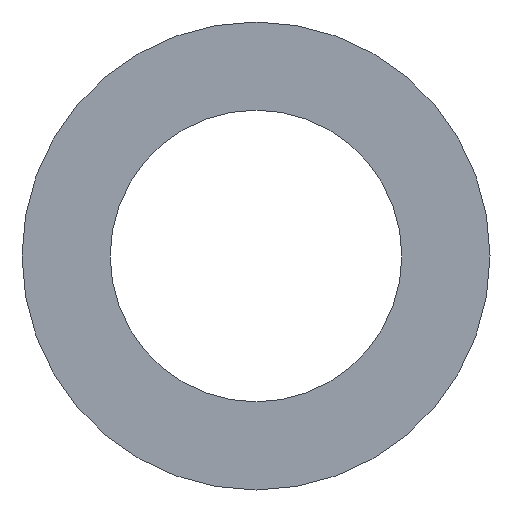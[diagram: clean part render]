
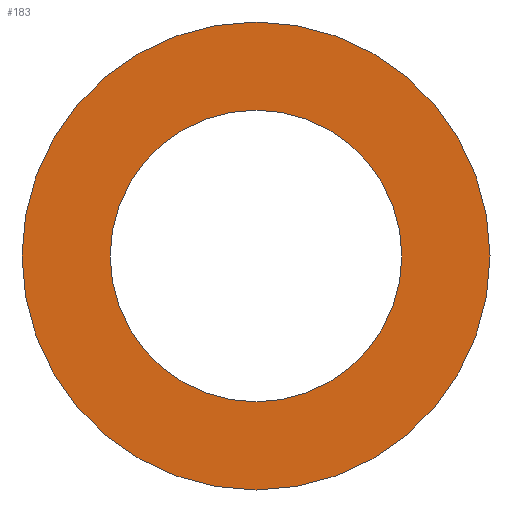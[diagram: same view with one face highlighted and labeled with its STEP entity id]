
A CAD part, left-side view. The second image highlights one B-rep face of the part: STEP entity #183.
In plain terms, the highlighted planar face has unit normal (-1, 0, 0).
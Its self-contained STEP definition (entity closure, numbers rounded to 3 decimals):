
#22 = VERTEX_POINT('',#23);
#23 = CARTESIAN_POINT('',(30.9,12.,0.));
#32 = CYLINDRICAL_SURFACE('',#33,12.);
#33 = AXIS2_PLACEMENT_3D('',#34,#35,#36);
#34 = CARTESIAN_POINT('',(30.9,0.,0.));
#35 = DIRECTION('',(-1.,-0.,-0.));
#36 = DIRECTION('',(0.,1.,0.));
#79 = EDGE_CURVE('',#22,#22,#80,.T.);
#80 = SURFACE_CURVE('',#81,(#86,#93),.PCURVE_S1.);
#81 = CIRCLE('',#82,12.);
#82 = AXIS2_PLACEMENT_3D('',#83,#84,#85);
#83 = CARTESIAN_POINT('',(30.9,0.,0.));
#84 = DIRECTION('',(1.,0.,0.));
#85 = DIRECTION('',(0.,1.,0.));
#86 = PCURVE('',#32,#87);
#87 = DEFINITIONAL_REPRESENTATION('',(#88),#92);
#88 = LINE('',#89,#90);
#89 = CARTESIAN_POINT('',(-0.,0.));
#90 = VECTOR('',#91,1.);
#91 = DIRECTION('',(-1.,0.));
#92 = ( GEOMETRIC_REPRESENTATION_CONTEXT(2) 
PARAMETRIC_REPRESENTATION_CONTEXT() REPRESENTATION_CONTEXT('2D SPACE',''
  ) );
#93 = PCURVE('',#94,#99);
#94 = PLANE('',#95);
#95 = AXIS2_PLACEMENT_3D('',#96,#97,#98);
#96 = CARTESIAN_POINT('',(30.9,0.,0.));
#97 = DIRECTION('',(1.,0.,0.));
#98 = DIRECTION('',(-0.,0.,1.));
#99 = DEFINITIONAL_REPRESENTATION('',(#100),#104);
#100 = CIRCLE('',#101,12.);
#101 = AXIS2_PLACEMENT_2D('',#102,#103);
#102 = CARTESIAN_POINT('',(0.,0.));
#103 = DIRECTION('',(0.,-1.));
#104 = ( GEOMETRIC_REPRESENTATION_CONTEXT(2) 
PARAMETRIC_REPRESENTATION_CONTEXT() REPRESENTATION_CONTEXT('2D SPACE',''
  ) );
#110 = VERTEX_POINT('',#111);
#111 = CARTESIAN_POINT('',(30.9,7.48,0.));
#120 = CYLINDRICAL_SURFACE('',#121,7.48);
#121 = AXIS2_PLACEMENT_3D('',#122,#123,#124);
#122 = CARTESIAN_POINT('',(30.9,0.,0.));
#123 = DIRECTION('',(-1.,-0.,-0.));
#124 = DIRECTION('',(0.,1.,0.));
#162 = EDGE_CURVE('',#110,#110,#163,.T.);
#163 = SURFACE_CURVE('',#164,(#169,#176),.PCURVE_S1.);
#164 = CIRCLE('',#165,7.48);
#165 = AXIS2_PLACEMENT_3D('',#166,#167,#168);
#166 = CARTESIAN_POINT('',(30.9,0.,0.));
#167 = DIRECTION('',(1.,0.,0.));
#168 = DIRECTION('',(0.,1.,0.));
#169 = PCURVE('',#120,#170);
#170 = DEFINITIONAL_REPRESENTATION('',(#171),#175);
#171 = LINE('',#172,#173);
#172 = CARTESIAN_POINT('',(-0.,0.));
#173 = VECTOR('',#174,1.);
#174 = DIRECTION('',(-1.,0.));
#175 = ( GEOMETRIC_REPRESENTATION_CONTEXT(2) 
PARAMETRIC_REPRESENTATION_CONTEXT() REPRESENTATION_CONTEXT('2D SPACE',''
  ) );
#176 = PCURVE('',#94,#177);
#177 = DEFINITIONAL_REPRESENTATION('',(#178),#182);
#178 = CIRCLE('',#179,7.48);
#179 = AXIS2_PLACEMENT_2D('',#180,#181);
#180 = CARTESIAN_POINT('',(0.,0.));
#181 = DIRECTION('',(0.,-1.));
#182 = ( GEOMETRIC_REPRESENTATION_CONTEXT(2) 
PARAMETRIC_REPRESENTATION_CONTEXT() REPRESENTATION_CONTEXT('2D SPACE',''
  ) );
#183 = ADVANCED_FACE('',(#184,#187),#94,.F.);
#184 = FACE_BOUND('',#185,.F.);
#185 = EDGE_LOOP('',(#186));
#186 = ORIENTED_EDGE('',*,*,#79,.T.);
#187 = FACE_BOUND('',#188,.F.);
#188 = EDGE_LOOP('',(#189));
#189 = ORIENTED_EDGE('',*,*,#162,.F.);
